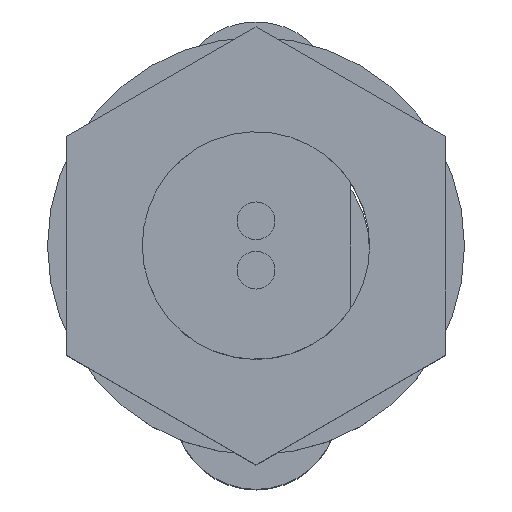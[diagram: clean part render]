
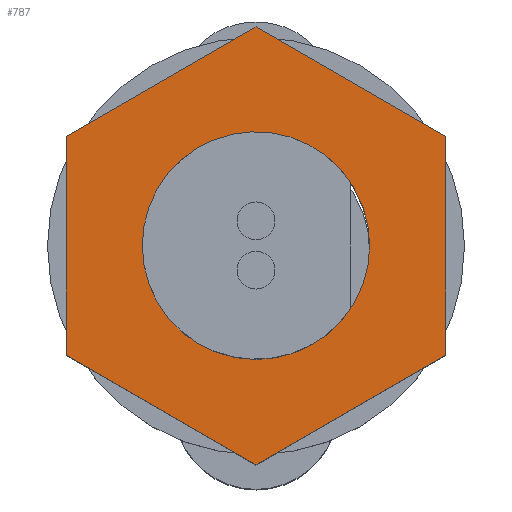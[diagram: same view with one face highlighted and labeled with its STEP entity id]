
A CAD part, top view. The second image highlights one B-rep face of the part: STEP entity #787.
In plain terms, the highlighted planar face has unit normal (0, 0, 1) as drawn and (-1, 0, 0) by its records, which use the part's own axes.
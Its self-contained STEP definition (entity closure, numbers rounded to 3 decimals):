
#730 = EDGE_CURVE ( 'NONE', #731, #732, #2129, .T. ) ;
#731 = VERTEX_POINT ( 'NONE', #2187 ) ;
#732 = VERTEX_POINT ( 'NONE', #2186 ) ;
#771 = EDGE_CURVE ( 'NONE', #798, #800, #2249, .T. ) ;
#772 = ORIENTED_EDGE ( 'NONE', *, *, #773, .T. ) ;
#773 = EDGE_CURVE ( 'NONE', #800, #774, #2245, .T. ) ;
#774 = VERTEX_POINT ( 'NONE', #2241 ) ;
#775 = ORIENTED_EDGE ( 'NONE', *, *, #776, .T. ) ;
#776 = EDGE_CURVE ( 'NONE', #774, #791, #2240, .T. ) ;
#777 = EDGE_LOOP ( 'NONE', ( #778, #779 ) ) ;
#778 = ORIENTED_EDGE ( 'NONE', *, *, #730, .F. ) ;
#779 = ORIENTED_EDGE ( 'NONE', *, *, #780, .F. ) ;
#780 = EDGE_CURVE ( 'NONE', #732, #731, #2236, .T. ) ;
#787 = ADVANCED_FACE ( 'NONE', ( #2283, #2282 ), #2281, .F. ) ;
#788 = EDGE_LOOP ( 'NONE', ( #789, #793, #796, #799, #772, #775 ) ) ;
#789 = ORIENTED_EDGE ( 'NONE', *, *, #790, .T. ) ;
#790 = EDGE_CURVE ( 'NONE', #791, #792, #2276, .T. ) ;
#791 = VERTEX_POINT ( 'NONE', #2272 ) ;
#792 = VERTEX_POINT ( 'NONE', #2271 ) ;
#793 = ORIENTED_EDGE ( 'NONE', *, *, #794, .T. ) ;
#794 = EDGE_CURVE ( 'NONE', #792, #795, #2270, .T. ) ;
#795 = VERTEX_POINT ( 'NONE', #2266 ) ;
#796 = ORIENTED_EDGE ( 'NONE', *, *, #797, .T. ) ;
#797 = EDGE_CURVE ( 'NONE', #795, #798, #2265, .T. ) ;
#798 = VERTEX_POINT ( 'NONE', #2261 ) ;
#799 = ORIENTED_EDGE ( 'NONE', *, *, #771, .T. ) ;
#800 = VERTEX_POINT ( 'NONE', #2260 ) ;
#2122 = DIRECTION ( 'NONE',  ( -1., 0., 0. ) ) ;
#2123 = CARTESIAN_POINT ( 'NONE',  ( 5., 0., 0. ) ) ;
#2124 = AXIS2_PLACEMENT_3D ( 'NONE', #2123, #2122, #2188 ) ;
#2129 = CIRCLE ( 'NONE', #2124, 3. ) ;
#2186 = CARTESIAN_POINT ( 'NONE',  ( 5., -3., 0. ) ) ;
#2187 = CARTESIAN_POINT ( 'NONE',  ( 5., 3., 0. ) ) ;
#2188 = DIRECTION ( 'NONE',  ( 0., -1., 0. ) ) ;
#2232 = DIRECTION ( 'NONE',  ( 0., -1., 0. ) ) ;
#2233 = DIRECTION ( 'NONE',  ( -1., 0., 0. ) ) ;
#2234 = CARTESIAN_POINT ( 'NONE',  ( 5., 0., 0. ) ) ;
#2235 = AXIS2_PLACEMENT_3D ( 'NONE', #2234, #2233, #2232 ) ;
#2236 = CIRCLE ( 'NONE', #2235, 3. ) ;
#2237 = DIRECTION ( 'NONE',  ( 0., 1., 0. ) ) ;
#2238 = VECTOR ( 'NONE', #2237, 1000. ) ;
#2239 = CARTESIAN_POINT ( 'NONE',  ( 5., -2.887, 5. ) ) ;
#2240 = LINE ( 'NONE', #2239, #2238 ) ;
#2241 = CARTESIAN_POINT ( 'NONE',  ( 5., -2.887, 5. ) ) ;
#2242 = DIRECTION ( 'NONE',  ( 0., 0.5, 0.866 ) ) ;
#2243 = VECTOR ( 'NONE', #2242, 1000. ) ;
#2244 = CARTESIAN_POINT ( 'NONE',  ( 5., -5.774, 0. ) ) ;
#2245 = LINE ( 'NONE', #2244, #2243 ) ;
#2246 = DIRECTION ( 'NONE',  ( 0., -0.5, 0.866 ) ) ;
#2247 = VECTOR ( 'NONE', #2246, 1000. ) ;
#2248 = CARTESIAN_POINT ( 'NONE',  ( 5., -2.887, -5. ) ) ;
#2249 = LINE ( 'NONE', #2248, #2247 ) ;
#2260 = CARTESIAN_POINT ( 'NONE',  ( 5., -5.774, 0. ) ) ;
#2261 = CARTESIAN_POINT ( 'NONE',  ( 5., -2.887, -5. ) ) ;
#2262 = DIRECTION ( 'NONE',  ( 0., -1., 0. ) ) ;
#2263 = VECTOR ( 'NONE', #2262, 1000. ) ;
#2264 = CARTESIAN_POINT ( 'NONE',  ( 5., 2.887, -5. ) ) ;
#2265 = LINE ( 'NONE', #2264, #2263 ) ;
#2266 = CARTESIAN_POINT ( 'NONE',  ( 5., 2.887, -5. ) ) ;
#2267 = DIRECTION ( 'NONE',  ( 0., -0.5, -0.866 ) ) ;
#2268 = VECTOR ( 'NONE', #2267, 1000. ) ;
#2269 = CARTESIAN_POINT ( 'NONE',  ( 5., 5.774, 0. ) ) ;
#2270 = LINE ( 'NONE', #2269, #2268 ) ;
#2271 = CARTESIAN_POINT ( 'NONE',  ( 5., 5.774, 0. ) ) ;
#2272 = CARTESIAN_POINT ( 'NONE',  ( 5., 2.887, 5. ) ) ;
#2273 = DIRECTION ( 'NONE',  ( 0., 0.5, -0.866 ) ) ;
#2274 = VECTOR ( 'NONE', #2273, 1000. ) ;
#2275 = CARTESIAN_POINT ( 'NONE',  ( 5., 2.887, 5. ) ) ;
#2276 = LINE ( 'NONE', #2275, #2274 ) ;
#2277 = DIRECTION ( 'NONE',  ( 0., 1., 0. ) ) ;
#2278 = DIRECTION ( 'NONE',  ( 1., 0., 0. ) ) ;
#2279 = CARTESIAN_POINT ( 'NONE',  ( 5., 0., 10. ) ) ;
#2280 = AXIS2_PLACEMENT_3D ( 'NONE', #2279, #2278, #2277 ) ;
#2281 = PLANE ( 'NONE',  #2280 ) ;
#2282 = FACE_BOUND ( 'NONE', #777, .T. ) ;
#2283 = FACE_OUTER_BOUND ( 'NONE', #788, .T. ) ;
